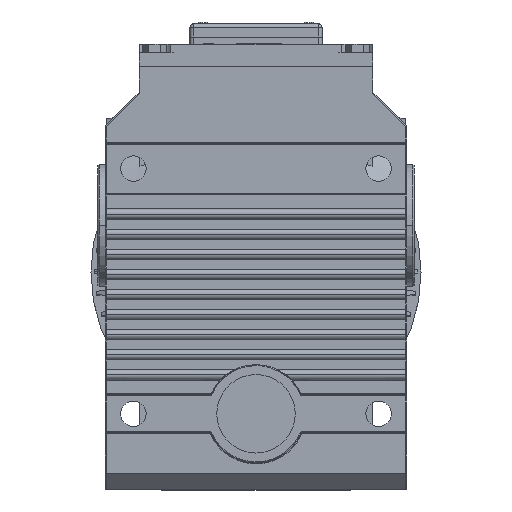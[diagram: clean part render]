
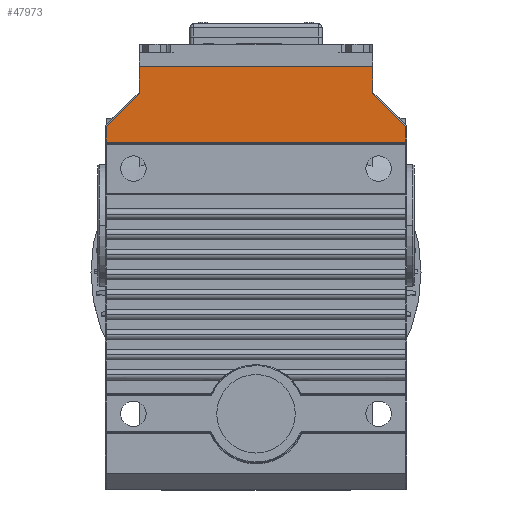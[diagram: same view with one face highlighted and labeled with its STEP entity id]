
A CAD part, top view. The second image highlights one B-rep face of the part: STEP entity #47973.
In plain terms, the highlighted planar face has unit normal (0, 0, 1).
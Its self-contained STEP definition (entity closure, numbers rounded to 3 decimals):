
#331 = ORIENTED_EDGE ( 'NONE', *, *, #18880, .F. ) ;
#4042 = VERTEX_POINT ( 'NONE', #15852 ) ;
#4854 = EDGE_CURVE ( 'NONE', #17853, #70552, #74502, .T. ) ;
#6246 = CARTESIAN_POINT ( 'NONE',  ( -101.862, 46.865, 100.25 ) ) ;
#6332 = VECTOR ( 'NONE', #69271, 1000. ) ;
#6552 = LINE ( 'NONE', #20334, #11529 ) ;
#10010 = EDGE_CURVE ( 'NONE', #49981, #76869, #51664, .T. ) ;
#10520 = CARTESIAN_POINT ( 'NONE',  ( -101.862, 55.658, 100.25 ) ) ;
#11529 = VECTOR ( 'NONE', #19515, 1000. ) ;
#12019 = CARTESIAN_POINT ( 'NONE',  ( 57.638, 46.865, 100.25 ) ) ;
#15404 = EDGE_CURVE ( 'NONE', #70552, #68565, #6552, .T. ) ;
#15852 = CARTESIAN_POINT ( 'NONE',  ( 39.638, 87.465, 100.25 ) ) ;
#15894 = CARTESIAN_POINT ( 'NONE',  ( 39.638, 73.158, 100.25 ) ) ;
#17257 = EDGE_LOOP ( 'NONE', ( #51951, #19354, #71729, #47028, #44072, #331, #41367, #35311 ) ) ;
#17853 = VERTEX_POINT ( 'NONE', #15894 ) ;
#18363 = DIRECTION ( 'NONE',  ( 0., 0., -1. ) ) ;
#18880 = EDGE_CURVE ( 'NONE', #68565, #78336, #30043, .T. ) ;
#19061 = CARTESIAN_POINT ( 'NONE',  ( -84.362, 87.465, 100.25 ) ) ;
#19354 = ORIENTED_EDGE ( 'NONE', *, *, #48141, .F. ) ;
#19515 = DIRECTION ( 'NONE',  ( 0., -1., 0. ) ) ;
#19860 = EDGE_CURVE ( 'NONE', #78336, #49981, #75253, .T. ) ;
#19966 = VECTOR ( 'NONE', #37566, 1000. ) ;
#20195 = VECTOR ( 'NONE', #45739, 1000. ) ;
#20334 = CARTESIAN_POINT ( 'NONE',  ( 57.138, 46.865, 100.25 ) ) ;
#27328 = CARTESIAN_POINT ( 'NONE',  ( -84.362, 73.158, 100.25 ) ) ;
#29716 = DIRECTION ( 'NONE',  ( -1., 0., 0. ) ) ;
#30043 = LINE ( 'NONE', #55743, #52733 ) ;
#31927 = VECTOR ( 'NONE', #54659, 1000. ) ;
#32429 = DIRECTION ( 'NONE',  ( -1., 0., 0. ) ) ;
#35029 = AXIS2_PLACEMENT_3D ( 'NONE', #12019, #18363, #29716 ) ;
#35311 = ORIENTED_EDGE ( 'NONE', *, *, #4854, .F. ) ;
#37566 = DIRECTION ( 'NONE',  ( 0., 1., 0. ) ) ;
#38202 = CARTESIAN_POINT ( 'NONE',  ( 39.638, 73.158, 100.25 ) ) ;
#39087 = CARTESIAN_POINT ( 'NONE',  ( -84.362, 73.865, 100.25 ) ) ;
#41367 = ORIENTED_EDGE ( 'NONE', *, *, #15404, .F. ) ;
#44072 = ORIENTED_EDGE ( 'NONE', *, *, #19860, .F. ) ;
#45056 = FACE_OUTER_BOUND ( 'NONE', #17257, .T. ) ;
#45739 = DIRECTION ( 'NONE',  ( 1., 0., 0. ) ) ;
#47028 = ORIENTED_EDGE ( 'NONE', *, *, #10010, .F. ) ;
#47973 = ADVANCED_FACE ( 'NONE', ( #45056 ), #81273, .F. ) ;
#48141 = EDGE_CURVE ( 'NONE', #63356, #4042, #61666, .T. ) ;
#49981 = VERTEX_POINT ( 'NONE', #78762 ) ;
#50176 = VECTOR ( 'NONE', #58580, 1000. ) ;
#51664 = LINE ( 'NONE', #10520, #31927 ) ;
#51951 = ORIENTED_EDGE ( 'NONE', *, *, #79462, .T. ) ;
#52733 = VECTOR ( 'NONE', #32429, 1000. ) ;
#52951 = CARTESIAN_POINT ( 'NONE',  ( 57.138, 47.365, 100.25 ) ) ;
#53599 = LINE ( 'NONE', #65988, #70354 ) ;
#54659 = DIRECTION ( 'NONE',  ( 0.707, 0.707, 0. ) ) ;
#55634 = CARTESIAN_POINT ( 'NONE',  ( -101.862, 47.365, 100.25 ) ) ;
#55743 = CARTESIAN_POINT ( 'NONE',  ( 57.638, 47.365, 100.25 ) ) ;
#58327 = CARTESIAN_POINT ( 'NONE',  ( -84.462, 87.465, 100.25 ) ) ;
#58580 = DIRECTION ( 'NONE',  ( 0., -1., 0. ) ) ;
#61666 = LINE ( 'NONE', #58327, #20195 ) ;
#63356 = VERTEX_POINT ( 'NONE', #19061 ) ;
#65988 = CARTESIAN_POINT ( 'NONE',  ( 39.638, 73.865, 100.25 ) ) ;
#68565 = VERTEX_POINT ( 'NONE', #52951 ) ;
#69271 = DIRECTION ( 'NONE',  ( 0.707, -0.707, 0. ) ) ;
#70354 = VECTOR ( 'NONE', #72340, 1000. ) ;
#70552 = VERTEX_POINT ( 'NONE', #80209 ) ;
#71729 = ORIENTED_EDGE ( 'NONE', *, *, #77703, .T. ) ;
#72340 = DIRECTION ( 'NONE',  ( 0., 1., 0. ) ) ;
#74502 = LINE ( 'NONE', #38202, #6332 ) ;
#74845 = LINE ( 'NONE', #39087, #50176 ) ;
#75253 = LINE ( 'NONE', #6246, #19966 ) ;
#76869 = VERTEX_POINT ( 'NONE', #27328 ) ;
#77703 = EDGE_CURVE ( 'NONE', #63356, #76869, #74845, .T. ) ;
#78336 = VERTEX_POINT ( 'NONE', #55634 ) ;
#78762 = CARTESIAN_POINT ( 'NONE',  ( -101.862, 55.658, 100.25 ) ) ;
#79462 = EDGE_CURVE ( 'NONE', #17853, #4042, #53599, .T. ) ;
#80209 = CARTESIAN_POINT ( 'NONE',  ( 57.138, 55.658, 100.25 ) ) ;
#81273 = PLANE ( 'NONE',  #35029 ) ;
